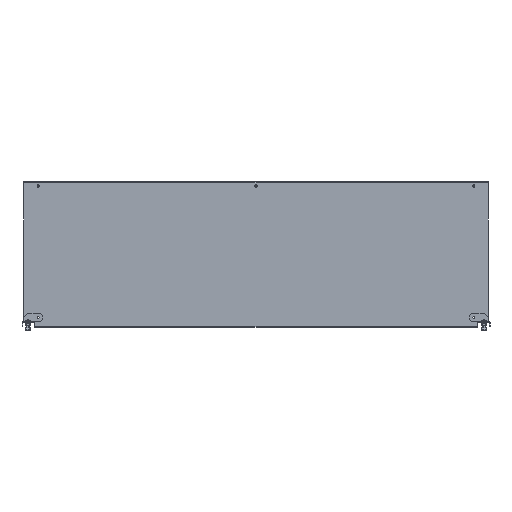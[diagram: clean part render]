
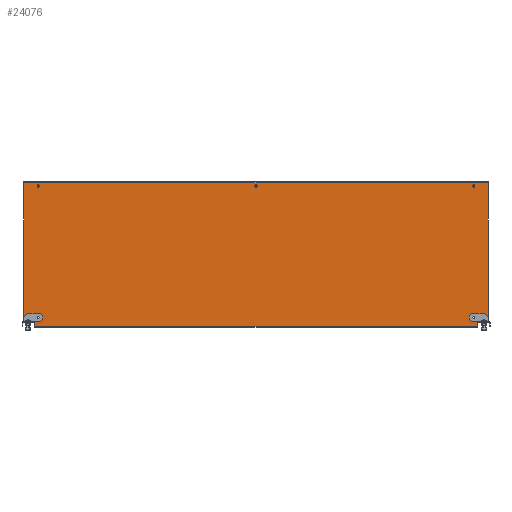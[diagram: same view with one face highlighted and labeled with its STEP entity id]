
A CAD part, top view. The second image highlights one B-rep face of the part: STEP entity #24076.
In plain terms, the highlighted planar face has unit normal (0, 0, 1).
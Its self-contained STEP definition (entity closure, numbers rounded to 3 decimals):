
#22901=CARTESIAN_POINT(' ',(-540.25,-158.,0.));
#22906=DIRECTION(' ',(1.,0.,0.));
#22911=VECTOR(' ',#22906,1.);
#22916=LINE('',#22901,#22911);
#22921=CARTESIAN_POINT(' ',(-540.25,-158.,0.));
#22922=VERTEX_POINT(' ',#22921);
#22926=CARTESIAN_POINT(' ',(-534.25,-158.,0.));
#22927=VERTEX_POINT(' ',#22926);
#22931=EDGE_CURVE(' ',#22922,#22927,#22916,.T.);
#23056=DIRECTION(' ',(-0.,-0.,1.));
#23061=CARTESIAN_POINT(' ',(573.,-177.4,0.));
#23066=DIRECTION(' ',(0.,1.,0.));
#23071=AXIS2_PLACEMENT_3D(' ',#23061,#23056,#23066);
#23076=PLANE('NONE',#23071);
#23081=CARTESIAN_POINT(' ',(546.,-165.,0.));
#23086=DIRECTION(' ',(1.,0.,0.));
#23091=VECTOR(' ',#23086,1.);
#23096=LINE('',#23081,#23091);
#23101=CARTESIAN_POINT(' ',(546.,-165.,0.));
#23102=VERTEX_POINT(' ',#23101);
#23106=CARTESIAN_POINT(' ',(568.,-165.,0.));
#23107=VERTEX_POINT(' ',#23106);
#23111=EDGE_CURVE(' ',#23102,#23107,#23096,.T.);
#23116=ORIENTED_EDGE(' ',*,*,#23111,.T.);
#23121=CARTESIAN_POINT(' ',(568.,-165.,0.));
#23126=DIRECTION(' ',(0.707,0.707,0.));
#23131=VECTOR(' ',#23126,1.);
#23136=LINE('',#23121,#23131);
#23141=CARTESIAN_POINT(' ',(573.,-160.,0.));
#23142=VERTEX_POINT(' ',#23141);
#23146=EDGE_CURVE(' ',#23107,#23142,#23136,.T.);
#23151=ORIENTED_EDGE(' ',*,*,#23146,.T.);
#23156=CARTESIAN_POINT(' ',(573.,-160.,0.));
#23161=DIRECTION(' ',(0.,1.,0.));
#23166=VECTOR(' ',#23161,1.);
#23171=LINE('',#23156,#23166);
#23176=CARTESIAN_POINT(' ',(573.,177.4,0.));
#23177=VERTEX_POINT(' ',#23176);
#23181=EDGE_CURVE(' ',#23142,#23177,#23171,.T.);
#23186=ORIENTED_EDGE(' ',*,*,#23181,.T.);
#23191=CARTESIAN_POINT(' ',(573.,177.4,0.));
#23196=DIRECTION(' ',(-1.,0.,0.));
#23201=VECTOR(' ',#23196,1.);
#23206=LINE('',#23191,#23201);
#23211=CARTESIAN_POINT(' ',(-573.,177.4,0.));
#23212=VERTEX_POINT(' ',#23211);
#23216=EDGE_CURVE(' ',#23177,#23212,#23206,.T.);
#23221=ORIENTED_EDGE(' ',*,*,#23216,.T.);
#23226=CARTESIAN_POINT(' ',(-573.,177.4,0.));
#23231=DIRECTION(' ',(0.,-1.,0.));
#23236=VECTOR(' ',#23231,1.);
#23241=LINE('',#23226,#23236);
#23246=CARTESIAN_POINT(' ',(-573.,-160.,0.));
#23247=VERTEX_POINT(' ',#23246);
#23251=EDGE_CURVE(' ',#23212,#23247,#23241,.T.);
#23256=ORIENTED_EDGE(' ',*,*,#23251,.T.);
#23261=CARTESIAN_POINT(' ',(-573.,-160.,0.));
#23266=DIRECTION(' ',(0.707,-0.707,0.));
#23271=VECTOR(' ',#23266,1.);
#23276=LINE('',#23261,#23271);
#23281=CARTESIAN_POINT(' ',(-568.,-165.,0.));
#23282=VERTEX_POINT(' ',#23281);
#23286=EDGE_CURVE(' ',#23247,#23282,#23276,.T.);
#23291=ORIENTED_EDGE(' ',*,*,#23286,.T.);
#23296=CARTESIAN_POINT(' ',(-568.,-165.,0.));
#23301=DIRECTION(' ',(1.,0.,0.));
#23306=VECTOR(' ',#23301,1.);
#23311=LINE('',#23296,#23306);
#23316=CARTESIAN_POINT(' ',(-546.,-165.,0.));
#23317=VERTEX_POINT(' ',#23316);
#23321=EDGE_CURVE(' ',#23282,#23317,#23311,.T.);
#23326=ORIENTED_EDGE(' ',*,*,#23321,.T.);
#23331=CARTESIAN_POINT(' ',(-546.,-165.,0.));
#23336=DIRECTION(' ',(0.,-1.,0.));
#23341=VECTOR(' ',#23336,1.);
#23346=LINE('',#23331,#23341);
#23351=CARTESIAN_POINT(' ',(-546.,-177.4,0.));
#23352=VERTEX_POINT(' ',#23351);
#23356=EDGE_CURVE(' ',#23317,#23352,#23346,.T.);
#23361=ORIENTED_EDGE(' ',*,*,#23356,.T.);
#23366=CARTESIAN_POINT(' ',(546.,-177.4,0.));
#23371=DIRECTION(' ',(-1.,0.,0.));
#23376=VECTOR(' ',#23371,1.);
#23381=LINE('',#23366,#23376);
#23386=CARTESIAN_POINT(' ',(546.,-177.4,0.));
#23387=VERTEX_POINT(' ',#23386);
#23391=EDGE_CURVE(' ',#23387,#23352,#23381,.T.);
#23396=ORIENTED_EDGE(' ',*,*,#23391,.F.);
#23401=CARTESIAN_POINT(' ',(546.,-177.4,0.));
#23406=DIRECTION(' ',(0.,1.,0.));
#23411=VECTOR(' ',#23406,1.);
#23416=LINE('',#23401,#23411);
#23421=EDGE_CURVE(' ',#23387,#23102,#23416,.T.);
#23426=ORIENTED_EDGE(' ',*,*,#23421,.T.);
#23431=EDGE_LOOP(' ',(#23116,#23151,#23186,#23221,#23256,#23291,#23326,#23361,#23396,#23426));
#23436=FACE_OUTER_BOUND(' ',#23431,.T.);
#23441=CARTESIAN_POINT(' ',(-534.25,-152.,0.));
#23446=DIRECTION(' ',(-1.,0.,0.));
#23451=VECTOR(' ',#23446,1.);
#23456=LINE('',#23441,#23451);
#23461=CARTESIAN_POINT(' ',(-534.25,-152.,0.));
#23462=VERTEX_POINT(' ',#23461);
#23466=CARTESIAN_POINT(' ',(-540.25,-152.,0.));
#23467=VERTEX_POINT(' ',#23466);
#23471=EDGE_CURVE(' ',#23462,#23467,#23456,.T.);
#23476=ORIENTED_EDGE(' ',*,*,#23471,.F.);
#23481=CARTESIAN_POINT(' ',(-534.25,-155.,0.));
#23486=DIRECTION(' ',(0.,0.,1.));
#23491=DIRECTION(' ',(1.,0.,0.));
#23496=AXIS2_PLACEMENT_3D(' ',#23481,#23486,#23491);
#23501=CIRCLE('',#23496,3.);
#23506=CARTESIAN_POINT(' ',(-531.25,-155.,0.));
#23507=VERTEX_POINT(' ',#23506);
#23511=EDGE_CURVE(' ',#23507,#23462,#23501,.T.);
#23516=ORIENTED_EDGE(' ',*,*,#23511,.F.);
#23521=CARTESIAN_POINT(' ',(-534.25,-155.,0.));
#23526=DIRECTION(' ',(0.,-0.,1.));
#23531=DIRECTION(' ',(0.,-1.,0.));
#23536=AXIS2_PLACEMENT_3D(' ',#23521,#23526,#23531);
#23541=CIRCLE('',#23536,3.);
#23546=EDGE_CURVE(' ',#22927,#23507,#23541,.T.);
#23551=ORIENTED_EDGE(' ',*,*,#23546,.F.);
#23556=ORIENTED_EDGE(' ',*,*,#22931,.F.);
#23561=CARTESIAN_POINT(' ',(-540.25,-155.,0.));
#23566=DIRECTION(' ',(0.,0.,1.));
#23571=DIRECTION(' ',(0.,1.,0.));
#23576=AXIS2_PLACEMENT_3D(' ',#23561,#23566,#23571);
#23581=CIRCLE('',#23576,3.);
#23586=EDGE_CURVE(' ',#23467,#22922,#23581,.T.);
#23591=ORIENTED_EDGE(' ',*,*,#23586,.F.);
#23596=EDGE_LOOP(' ',(#23476,#23516,#23551,#23556,#23591));
#23601=FACE_BOUND(' ',#23596,.T.);
#23606=CARTESIAN_POINT(' ',(534.25,-158.,0.));
#23611=DIRECTION(' ',(1.,0.,0.));
#23616=VECTOR(' ',#23611,1.);
#23621=LINE('',#23606,#23616);
#23626=CARTESIAN_POINT(' ',(534.25,-158.,0.));
#23627=VERTEX_POINT(' ',#23626);
#23631=CARTESIAN_POINT(' ',(540.25,-158.,0.));
#23632=VERTEX_POINT(' ',#23631);
#23636=EDGE_CURVE(' ',#23627,#23632,#23621,.T.);
#23641=ORIENTED_EDGE(' ',*,*,#23636,.F.);
#23646=CARTESIAN_POINT(' ',(534.25,-155.,0.));
#23651=DIRECTION(' ',(0.,0.,1.));
#23656=DIRECTION(' ',(0.,1.,0.));
#23661=AXIS2_PLACEMENT_3D(' ',#23646,#23651,#23656);
#23666=CIRCLE('',#23661,3.);
#23671=CARTESIAN_POINT(' ',(534.25,-152.,0.));
#23672=VERTEX_POINT(' ',#23671);
#23676=EDGE_CURVE(' ',#23672,#23627,#23666,.T.);
#23681=ORIENTED_EDGE(' ',*,*,#23676,.F.);
#23686=CARTESIAN_POINT(' ',(540.25,-152.,0.));
#23691=DIRECTION(' ',(-1.,0.,0.));
#23696=VECTOR(' ',#23691,1.);
#23701=LINE('',#23686,#23696);
#23706=CARTESIAN_POINT(' ',(540.25,-152.,0.));
#23707=VERTEX_POINT(' ',#23706);
#23711=EDGE_CURVE(' ',#23707,#23672,#23701,.T.);
#23716=ORIENTED_EDGE(' ',*,*,#23711,.F.);
#23721=CARTESIAN_POINT(' ',(540.25,-155.,0.));
#23726=DIRECTION(' ',(0.,0.,1.));
#23731=DIRECTION(' ',(1.,0.,0.));
#23736=AXIS2_PLACEMENT_3D(' ',#23721,#23726,#23731);
#23741=CIRCLE('',#23736,3.);
#23746=CARTESIAN_POINT(' ',(543.25,-155.,0.));
#23747=VERTEX_POINT(' ',#23746);
#23751=EDGE_CURVE(' ',#23747,#23707,#23741,.T.);
#23756=ORIENTED_EDGE(' ',*,*,#23751,.F.);
#23761=CARTESIAN_POINT(' ',(540.25,-155.,0.));
#23766=DIRECTION(' ',(0.,-0.,1.));
#23771=DIRECTION(' ',(0.,-1.,0.));
#23776=AXIS2_PLACEMENT_3D(' ',#23761,#23766,#23771);
#23781=CIRCLE('',#23776,3.);
#23786=EDGE_CURVE(' ',#23632,#23747,#23781,.T.);
#23791=ORIENTED_EDGE(' ',*,*,#23786,.F.);
#23796=EDGE_LOOP(' ',(#23641,#23681,#23716,#23756,#23791));
#23801=FACE_BOUND(' ',#23796,.T.);
#23806=CARTESIAN_POINT(' ',(-537.25,169.5,0.));
#23811=DIRECTION(' ',(0.,0.,1.));
#23816=DIRECTION(' ',(1.,0.,0.));
#23821=AXIS2_PLACEMENT_3D(' ',#23806,#23811,#23816);
#23826=CIRCLE('',#23821,2.75);
#23831=CARTESIAN_POINT(' ',(-534.5,169.5,0.));
#23832=VERTEX_POINT(' ',#23831);
#23836=CARTESIAN_POINT(' ',(-540.,169.5,0.));
#23837=VERTEX_POINT(' ',#23836);
#23841=EDGE_CURVE(' ',#23832,#23837,#23826,.T.);
#23846=ORIENTED_EDGE(' ',*,*,#23841,.F.);
#23851=CARTESIAN_POINT(' ',(-537.25,169.5,0.));
#23856=DIRECTION(' ',(0.,-0.,1.));
#23861=DIRECTION(' ',(-1.,0.,0.));
#23866=AXIS2_PLACEMENT_3D(' ',#23851,#23856,#23861);
#23871=CIRCLE('',#23866,2.75);
#23876=EDGE_CURVE(' ',#23837,#23832,#23871,.T.);
#23881=ORIENTED_EDGE(' ',*,*,#23876,.F.);
#23886=EDGE_LOOP(' ',(#23846,#23881));
#23891=FACE_BOUND(' ',#23886,.T.);
#23896=CARTESIAN_POINT(' ',(537.25,169.5,0.));
#23901=DIRECTION(' ',(0.,0.,1.));
#23906=DIRECTION(' ',(1.,0.,0.));
#23911=AXIS2_PLACEMENT_3D(' ',#23896,#23901,#23906);
#23916=CIRCLE('',#23911,2.75);
#23921=CARTESIAN_POINT(' ',(540.,169.5,0.));
#23922=VERTEX_POINT(' ',#23921);
#23926=CARTESIAN_POINT(' ',(534.5,169.5,0.));
#23927=VERTEX_POINT(' ',#23926);
#23931=EDGE_CURVE(' ',#23922,#23927,#23916,.T.);
#23936=ORIENTED_EDGE(' ',*,*,#23931,.F.);
#23941=CARTESIAN_POINT(' ',(537.25,169.5,0.));
#23946=DIRECTION(' ',(0.,-0.,1.));
#23951=DIRECTION(' ',(-1.,0.,0.));
#23956=AXIS2_PLACEMENT_3D(' ',#23941,#23946,#23951);
#23961=CIRCLE('',#23956,2.75);
#23966=EDGE_CURVE(' ',#23927,#23922,#23961,.T.);
#23971=ORIENTED_EDGE(' ',*,*,#23966,.F.);
#23976=EDGE_LOOP(' ',(#23936,#23971));
#23981=FACE_BOUND(' ',#23976,.T.);
#23986=CARTESIAN_POINT(' ',(0.,169.5,0.));
#23991=DIRECTION(' ',(0.,0.,1.));
#23996=DIRECTION(' ',(1.,0.,0.));
#24001=AXIS2_PLACEMENT_3D(' ',#23986,#23991,#23996);
#24006=CIRCLE('',#24001,2.75);
#24011=CARTESIAN_POINT(' ',(2.75,169.5,0.));
#24012=VERTEX_POINT(' ',#24011);
#24016=CARTESIAN_POINT(' ',(-2.75,169.5,0.));
#24017=VERTEX_POINT(' ',#24016);
#24021=EDGE_CURVE(' ',#24012,#24017,#24006,.T.);
#24026=ORIENTED_EDGE(' ',*,*,#24021,.F.);
#24031=CARTESIAN_POINT(' ',(0.,169.5,0.));
#24036=DIRECTION(' ',(0.,-0.,1.));
#24041=DIRECTION(' ',(-1.,0.,0.));
#24046=AXIS2_PLACEMENT_3D(' ',#24031,#24036,#24041);
#24051=CIRCLE('',#24046,2.75);
#24056=EDGE_CURVE(' ',#24017,#24012,#24051,.T.);
#24061=ORIENTED_EDGE(' ',*,*,#24056,.F.);
#24066=EDGE_LOOP(' ',(#24026,#24061));
#24071=FACE_BOUND(' ',#24066,.T.);
#24076=ADVANCED_FACE('NONE',(#23436,#23601,#23801,#23891,#23981,#24071),#23076,.T.);
